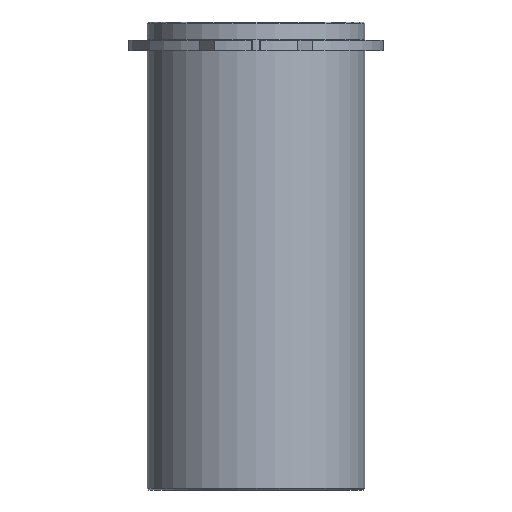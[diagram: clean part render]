
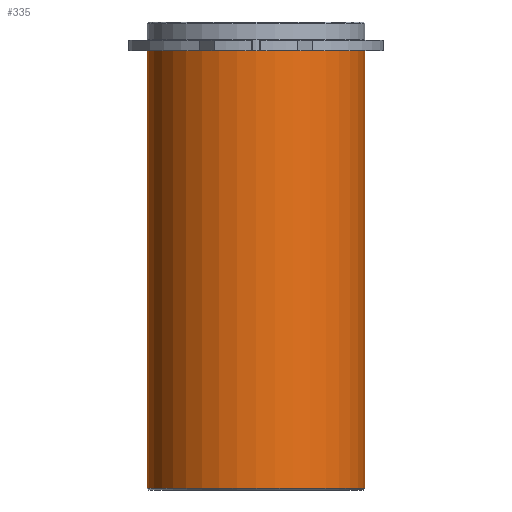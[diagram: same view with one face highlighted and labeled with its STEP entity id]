
A CAD part, front view. The second image highlights one B-rep face of the part: STEP entity #335.
In plain terms, the highlighted cylindrical face has radius 18.625 mm (diameter 37.25 mm), a partial arc.
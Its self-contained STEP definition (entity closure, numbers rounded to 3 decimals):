
#294=CARTESIAN_POINT('',(0.0,0.,-37.4));
#295=DIRECTION('',(0.0,0.,1.0));
#296=DIRECTION('',(1.0,0.0,0.0));
#297=AXIS2_PLACEMENT_3D('',#294,#295,#296);
#298=CYLINDRICAL_SURFACE('',#297,18.625);
#299=CARTESIAN_POINT('',(18.625,0.0,0.0));
#300=VERTEX_POINT('',#299);
#301=CARTESIAN_POINT('',(18.625,0.,-74.8));
#302=VERTEX_POINT('',#301);
#303=CARTESIAN_POINT('',(18.625,0.0,0.0));
#304=DIRECTION('',(0.0,0.0,-1.0));
#305=VECTOR('',#304,74.8);
#306=LINE('',#303,#305);
#307=EDGE_CURVE('',#300,#302,#306,.T.);
#308=ORIENTED_EDGE('',*,*,#307,.F.);
#309=CARTESIAN_POINT('',(-18.625,0.,0.0));
#310=VERTEX_POINT('',#309);
#311=CARTESIAN_POINT('',(0.0,0.0,0.0));
#312=DIRECTION('',(0.0,0.0,1.0));
#313=DIRECTION('',(1.0,0.0,0.0));
#314=AXIS2_PLACEMENT_3D('',#311,#312,#313);
#315=CIRCLE('',#314,18.625);
#316=EDGE_CURVE('',#310,#300,#315,.T.);
#317=ORIENTED_EDGE('',*,*,#316,.F.);
#318=CARTESIAN_POINT('',(-18.625,0.,-74.8));
#319=VERTEX_POINT('',#318);
#320=CARTESIAN_POINT('',(-18.625,0.,0.0));
#321=DIRECTION('',(0.0,0.0,-1.0));
#322=VECTOR('',#321,74.8);
#323=LINE('',#320,#322);
#324=EDGE_CURVE('',#310,#319,#323,.T.);
#325=ORIENTED_EDGE('',*,*,#324,.T.);
#326=CARTESIAN_POINT('',(0.0,0.,-74.8));
#327=DIRECTION('',(0.0,0.0,1.0));
#328=DIRECTION('',(1.0,0.0,0.0));
#329=AXIS2_PLACEMENT_3D('',#326,#327,#328);
#330=CIRCLE('',#329,18.625);
#331=EDGE_CURVE('',#319,#302,#330,.T.);
#332=ORIENTED_EDGE('',*,*,#331,.T.);
#333=EDGE_LOOP('',(#308,#317,#325,#332));
#334=FACE_OUTER_BOUND('',#333,.T.);
#335=ADVANCED_FACE('',(#334),#298,.T.);
